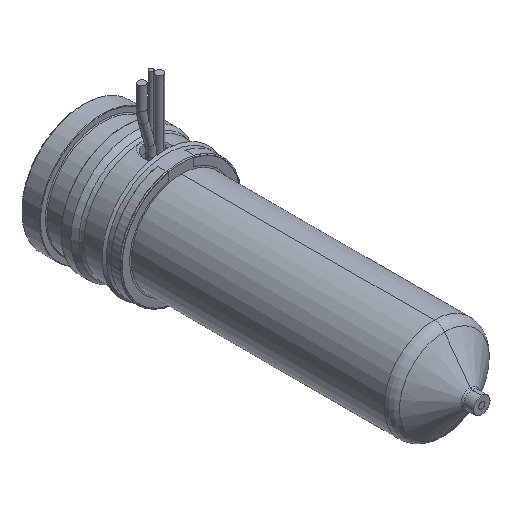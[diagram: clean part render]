
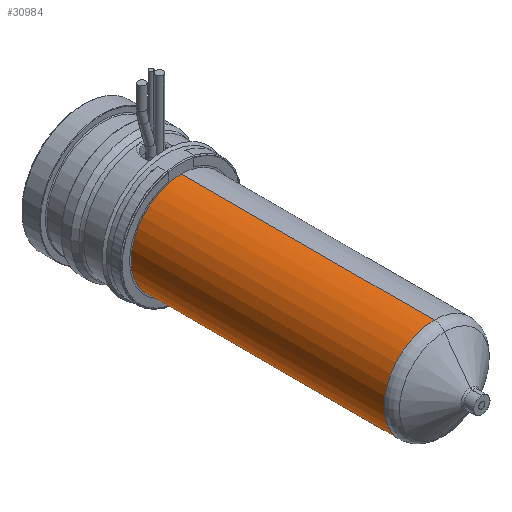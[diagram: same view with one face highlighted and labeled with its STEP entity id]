
A CAD part, isometric view. The second image highlights one B-rep face of the part: STEP entity #30984.
In plain terms, the highlighted cylindrical face has radius 12 mm (diameter 24 mm), a partial arc.
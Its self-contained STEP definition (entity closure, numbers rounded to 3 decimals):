
#30629=CARTESIAN_POINT('',(0.,-24.,0.));
#30630=DIRECTION('',(0.,1.,0.));
#30631=DIRECTION('',(0.,0.,-1.));
#30632=AXIS2_PLACEMENT_3D('',#30629,#30630,#30631);
#30637=DIRECTION('',(0.,1.,0.));
#30638=VECTOR('',#30637,60.671);
#30639=CARTESIAN_POINT('',(0.,-84.671,12.));
#30640=LINE('',#30639,#30638);
#30652=DIRECTION('',(0.,1.,0.));
#30653=VECTOR('',#30652,60.671);
#30654=CARTESIAN_POINT('',(0.,-84.671,-12.));
#30655=LINE('',#30654,#30653);
#30683=CARTESIAN_POINT('',(0.,-84.671,0.));
#30684=DIRECTION('',(0.,-1.,0.));
#30685=DIRECTION('',(0.,0.,1.));
#30686=AXIS2_PLACEMENT_3D('',#30683,#30684,#30685);
#30873=CARTESIAN_POINT('',(0.,-84.671,12.));
#30874=CARTESIAN_POINT('',(0.,-24.,12.));
#30875=VERTEX_POINT('',#30873);
#30876=VERTEX_POINT('',#30874);
#30881=CARTESIAN_POINT('',(0.,-84.671,-12.));
#30882=CARTESIAN_POINT('',(0.,-24.,-12.));
#30883=VERTEX_POINT('',#30881);
#30884=VERTEX_POINT('',#30882);
#30970=CARTESIAN_POINT('',(0.,-16.2,0.));
#30971=DIRECTION('',(0.,-1.,0.));
#30972=DIRECTION('',(0.,0.,1.));
#30973=AXIS2_PLACEMENT_3D('',#30970,#30971,#30972);
#30974=CYLINDRICAL_SURFACE('',#30973,12.);
#30976=ORIENTED_EDGE('',*,*,#30975,.F.);
#30978=ORIENTED_EDGE('',*,*,#30977,.T.);
#30980=ORIENTED_EDGE('',*,*,#30979,.T.);
#30981=ORIENTED_EDGE('',*,*,#30963,.T.);
#30982=EDGE_LOOP('',(#30976,#30978,#30980,#30981));
#30983=FACE_OUTER_BOUND('',#30982,.F.);
#30984=ADVANCED_FACE('',(#30983),#30974,.T.);
#30633=CIRCLE('',#30632,12.);
#30687=CIRCLE('',#30686,12.);
#30963=EDGE_CURVE('',#30884,#30876,#30633,.T.);
#30975=EDGE_CURVE('',#30875,#30876,#30640,.T.);
#30977=EDGE_CURVE('',#30875,#30883,#30687,.T.);
#30979=EDGE_CURVE('',#30883,#30884,#30655,.T.);
